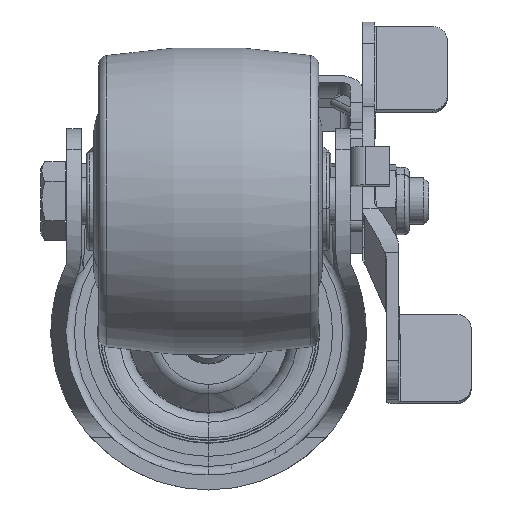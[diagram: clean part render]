
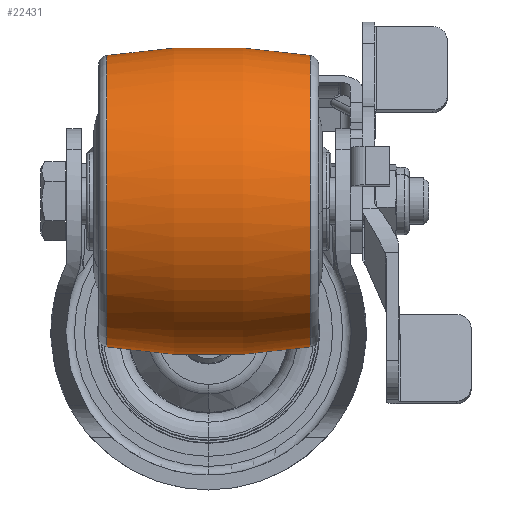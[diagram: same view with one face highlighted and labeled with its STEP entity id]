
A CAD part, front view. The second image highlights one B-rep face of the part: STEP entity #22431.
In plain terms, the highlighted toroidal (fillet/blend) face has major radius 96.062 mm and minor radius 127.562 mm.
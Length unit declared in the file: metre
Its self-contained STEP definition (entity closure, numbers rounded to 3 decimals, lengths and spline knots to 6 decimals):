
#38 = VERTEX_POINT ( 'NONE', #8412 ) ;
#1326 = AXIS2_PLACEMENT_3D ( 'NONE', #16360, #21320, #18125 ) ;
#3419 = AXIS2_PLACEMENT_3D ( 'NONE', #7765, #11976, #8459 ) ;
#3616 = VERTEX_POINT ( 'NONE', #16611 ) ;
#3629 = DIRECTION ( 'NONE',  ( 1., 0., 0. ) ) ;
#3721 = EDGE_CURVE ( 'NONE', #9580, #3616, #16326, .T. ) ;
#4662 = TOROIDAL_SURFACE ( 'NONE', #7642, -0.096062, 0.127562 ) ;
#4882 = CIRCLE ( 'NONE', #17992, 0.127562 ) ;
#6072 = CIRCLE ( 'NONE', #3419, 0.029788 ) ;
#6172 = CARTESIAN_POINT ( 'NONE',  ( 0., -0.0473, 0.122862 ) ) ;
#7219 = CARTESIAN_POINT ( 'NONE',  ( -0.020827, -0.0473, -0.002988 ) ) ;
#7409 = ORIENTED_EDGE ( 'NONE', *, *, #3721, .F. ) ;
#7642 = AXIS2_PLACEMENT_3D ( 'NONE', #14204, #3629, #19177 ) ;
#7765 = CARTESIAN_POINT ( 'NONE',  ( 0.020827, -0.0473, 0.0268 ) ) ;
#8412 = CARTESIAN_POINT ( 'NONE',  ( 0.020827, -0.0473, -0.002988 ) ) ;
#8459 = DIRECTION ( 'NONE',  ( 0., 0., -1. ) ) ;
#9580 = VERTEX_POINT ( 'NONE', #15245 ) ;
#10281 = DIRECTION ( 'NONE',  ( 0., 0., -1. ) ) ;
#11976 = DIRECTION ( 'NONE',  ( 1., 0., 0. ) ) ;
#12835 = ORIENTED_EDGE ( 'NONE', *, *, #14122, .T. ) ;
#12859 = VERTEX_POINT ( 'NONE', #7219 ) ;
#12991 = ORIENTED_EDGE ( 'NONE', *, *, #19222, .T. ) ;
#13007 = DIRECTION ( 'NONE',  ( 0., -1., 0. ) ) ;
#13141 = EDGE_LOOP ( 'NONE', ( #7409, #12835, #12991, #18606 ) ) ;
#14122 = EDGE_CURVE ( 'NONE', #9580, #12859, #20021, .T. ) ;
#14204 = CARTESIAN_POINT ( 'NONE',  ( 0., -0.0473, 0.0268 ) ) ;
#14859 = DIRECTION ( 'NONE',  ( 0., 0., -1. ) ) ;
#15245 = CARTESIAN_POINT ( 'NONE',  ( -0.020827, -0.0473, 0.056588 ) ) ;
#16005 = CARTESIAN_POINT ( 'NONE',  ( -0.020827, -0.0473, 0.0268 ) ) ;
#16326 = CIRCLE ( 'NONE', #1326, 0.127562 ) ;
#16360 = CARTESIAN_POINT ( 'NONE',  ( 0., -0.0473, -0.069262 ) ) ;
#16611 = CARTESIAN_POINT ( 'NONE',  ( 0.020827, -0.0473, 0.056588 ) ) ;
#16683 = EDGE_CURVE ( 'NONE', #3616, #38, #6072, .T. ) ;
#17992 = AXIS2_PLACEMENT_3D ( 'NONE', #6172, #13007, #14859 ) ;
#18125 = DIRECTION ( 'NONE',  ( 0., 0., 1. ) ) ;
#18606 = ORIENTED_EDGE ( 'NONE', *, *, #16683, .F. ) ;
#19177 = DIRECTION ( 'NONE',  ( 0., 0., -1. ) ) ;
#19222 = EDGE_CURVE ( 'NONE', #12859, #38, #4882, .T. ) ;
#20021 = CIRCLE ( 'NONE', #21909, 0.029788 ) ;
#20963 = DIRECTION ( 'NONE',  ( 1., 0., 0. ) ) ;
#21320 = DIRECTION ( 'NONE',  ( 0., 1., 0. ) ) ;
#21615 = FACE_OUTER_BOUND ( 'NONE', #13141, .T. ) ;
#21909 = AXIS2_PLACEMENT_3D ( 'NONE', #16005, #20963, #10281 ) ;
#22431 = ADVANCED_FACE ( 'NONE', ( #21615 ), #4662, .T. ) ;
